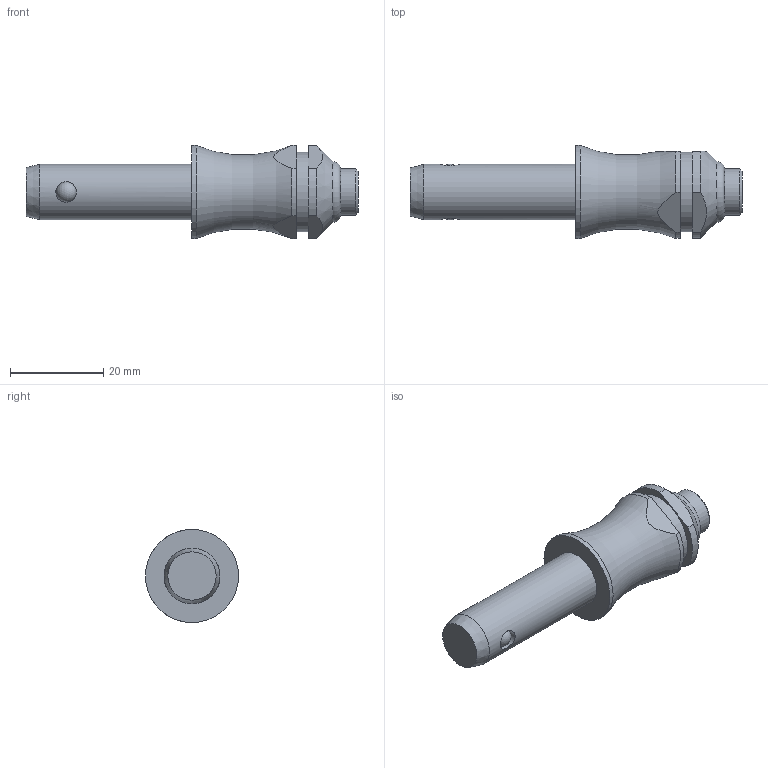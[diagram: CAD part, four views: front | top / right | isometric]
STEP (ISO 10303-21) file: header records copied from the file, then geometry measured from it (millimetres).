
FILE_DESCRIPTION( ( 'STEP AP203' ), '1' );
FILE_NAME( 'C:/Temp/Ganter_Step_05_03_2020/data/3_1/gn113_3/Stainless Steel-Ball lock pin GN 113.3-12-25 (activated).stp', '2020-03-12T08:18:41', ( 'License CC BY-ND 4.0' ), ( 'CADENAS' ), ' ', 'PARTsolutions', ' ' );
FILE_SCHEMA( ( 'CONFIG_CONTROL_DESIGN' ) );
Length unit declared in the file: millimetre
Products named in the file (1): _Stainless Steel-Ball lock pin GN 113.3-12-25 (activated)
Bounding box: 71.35 x 20 x 20 mm (x, y, z)
Volume: 11631.5 mm3; surface area: 3858.9 mm2
Topology: 1 solids, 1 shells, 30 faces, 72 edges, 45 vertices
Faces by surface type: cylinder 12, plane 11, cone 3, torus 2, sphere 2
Full cylindrical faces by diameter (mm): 4.4 x2, 10 x1, 12 x1, 17 x1, 20 x1
Entity records: 1010 total; most frequent: CARTESIAN_POINT 360, DIRECTION 130, ORIENTED_EDGE 102, AXIS2_PLACEMENT_3D 56, EDGE_CURVE 51, EDGE_LOOP 46, VERTEX_POINT 40, FACE_OUTER_BOUND 38
